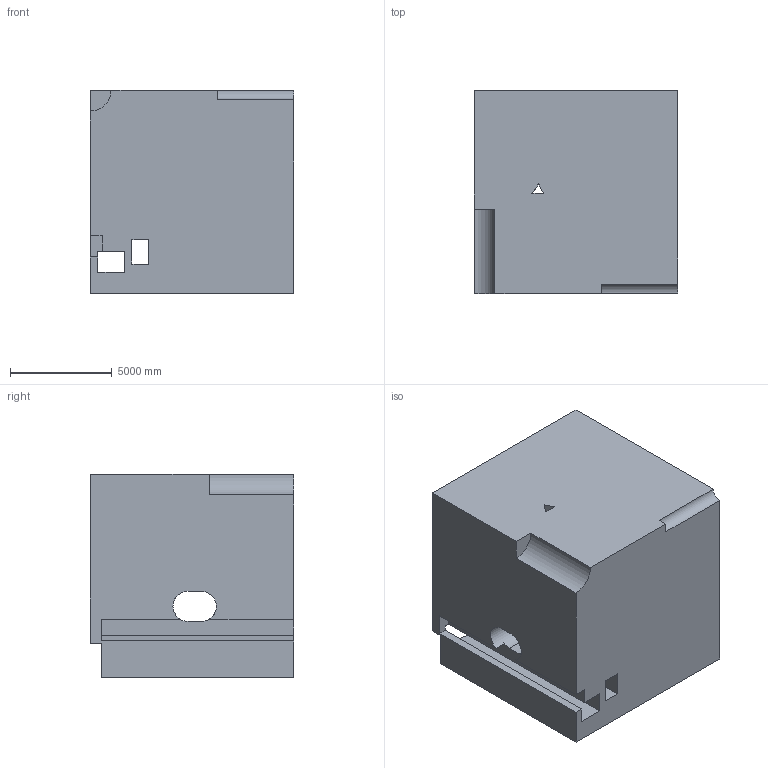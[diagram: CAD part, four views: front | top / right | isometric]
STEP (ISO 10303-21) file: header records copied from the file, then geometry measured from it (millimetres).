
FILE_DESCRIPTION (( 'STEP AP203' ), '1' );
FILE_NAME ('180.STEP', '2022-09-05T15:59:28', ( 'user' ), ( '' ), 'SwSTEP 2.0', 'SolidWorks 2021', '' );
FILE_SCHEMA (( 'CONFIG_CONTROL_DESIGN' ));
Length unit declared in the file: centimetre
Products named in the file (1): 180
Bounding box: 10000 x 10000 x 10000 mm (x, y, z)
Volume: 914207807686.7 mm3; surface area: 759750845.9 mm2
Topology: 1 solids, 1 shells, 48 faces, 162 edges, 108 vertices
Faces by surface type: plane 44, cylinder 4
Entity records: 1843 total; most frequent: CARTESIAN_POINT 343, ORIENTED_EDGE 324, DIRECTION 264, EDGE_CURVE 162, LINE 142, VECTOR 142, VERTEX_POINT 108, AXIS2_PLACEMENT_3D 61
